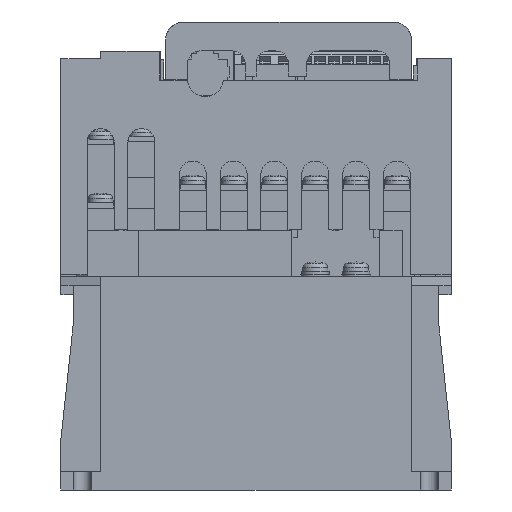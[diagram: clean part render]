
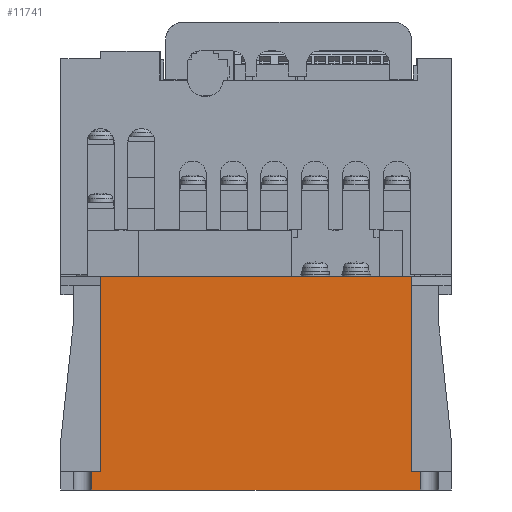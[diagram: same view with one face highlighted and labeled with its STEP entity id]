
A CAD part, front view. The second image highlights one B-rep face of the part: STEP entity #11741.
In plain terms, the highlighted planar face has unit normal (0, -1, 0).
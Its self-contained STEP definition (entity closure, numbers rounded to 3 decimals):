
#3074=DIRECTION('',(1.,0.,0.));
#3075=VECTOR('',#3074,86.);
#3076=CARTESIAN_POINT('',(-43.,-64.,65.));
#3077=LINE('',#3076,#3075);
#3327=DIRECTION('',(1.,0.,0.));
#3328=VECTOR('',#3327,2.5);
#3329=CARTESIAN_POINT('',(43.,-64.,11.));
#3330=LINE('',#3329,#3328);
#3372=DIRECTION('',(1.,0.,0.));
#3373=VECTOR('',#3372,2.5);
#3374=CARTESIAN_POINT('',(-45.5,-64.,11.));
#3375=LINE('',#3374,#3373);
#3472=DIRECTION('',(0.,0.,1.));
#3473=VECTOR('',#3472,54.);
#3474=CARTESIAN_POINT('',(43.,-64.,11.));
#3475=LINE('',#3474,#3473);
#3480=DIRECTION('',(0.,0.,1.));
#3481=VECTOR('',#3480,5.);
#3482=CARTESIAN_POINT('',(45.5,-64.,6.));
#3483=LINE('',#3482,#3481);
#3484=DIRECTION('',(0.,0.,1.));
#3485=VECTOR('',#3484,5.);
#3486=CARTESIAN_POINT('',(-45.5,-64.,6.));
#3487=LINE('',#3486,#3485);
#3488=DIRECTION('',(0.,0.,1.));
#3489=VECTOR('',#3488,54.);
#3490=CARTESIAN_POINT('',(-43.,-64.,11.));
#3491=LINE('',#3490,#3489);
#3581=DIRECTION('',(1.,0.,0.));
#3582=VECTOR('',#3581,91.);
#3583=CARTESIAN_POINT('',(-45.5,-64.,6.));
#3584=LINE('',#3583,#3582);
#5377=CARTESIAN_POINT('',(-43.,-64.,11.));
#5378=VERTEX_POINT('',#5377);
#5379=CARTESIAN_POINT('',(43.,-64.,11.));
#5381=VERTEX_POINT('',#5379);
#5389=CARTESIAN_POINT('',(-43.,-64.,65.));
#5390=VERTEX_POINT('',#5389);
#5391=CARTESIAN_POINT('',(43.,-64.,65.));
#5392=VERTEX_POINT('',#5391);
#5437=CARTESIAN_POINT('',(45.5,-64.,6.));
#5438=VERTEX_POINT('',#5437);
#5439=CARTESIAN_POINT('',(-45.5,-64.,6.));
#5441=VERTEX_POINT('',#5439);
#5465=CARTESIAN_POINT('',(45.5,-64.,11.));
#5466=VERTEX_POINT('',#5465);
#5467=CARTESIAN_POINT('',(-45.5,-64.,11.));
#5469=VERTEX_POINT('',#5467);
#11722=CARTESIAN_POINT('',(-54.,-64.,6.));
#11723=DIRECTION('',(0.,-1.,0.));
#11724=DIRECTION('',(1.,0.,0.));
#11725=AXIS2_PLACEMENT_3D('',#11722,#11723,#11724);
#11726=PLANE('',#11725);
#11728=ORIENTED_EDGE('',*,*,#11727,.F.);
#11730=ORIENTED_EDGE('',*,*,#11729,.F.);
#11732=ORIENTED_EDGE('',*,*,#11731,.T.);
#11733=ORIENTED_EDGE('',*,*,#11569,.T.);
#11735=ORIENTED_EDGE('',*,*,#11734,.T.);
#11736=ORIENTED_EDGE('',*,*,#11246,.T.);
#11737=ORIENTED_EDGE('',*,*,#11711,.F.);
#11738=ORIENTED_EDGE('',*,*,#11541,.T.);
#11739=EDGE_LOOP('',(#11728,#11730,#11732,#11733,#11735,#11736,#11737,#11738));
#11740=FACE_OUTER_BOUND('',#11739,.F.);
#11741=ADVANCED_FACE('',(#11740),#11726,.T.);
#11246=EDGE_CURVE('',#5390,#5392,#3077,.T.);
#11541=EDGE_CURVE('',#5381,#5466,#3330,.T.);
#11569=EDGE_CURVE('',#5469,#5378,#3375,.T.);
#11711=EDGE_CURVE('',#5381,#5392,#3475,.T.);
#11727=EDGE_CURVE('',#5438,#5466,#3483,.T.);
#11729=EDGE_CURVE('',#5441,#5438,#3584,.T.);
#11731=EDGE_CURVE('',#5441,#5469,#3487,.T.);
#11734=EDGE_CURVE('',#5378,#5390,#3491,.T.);
